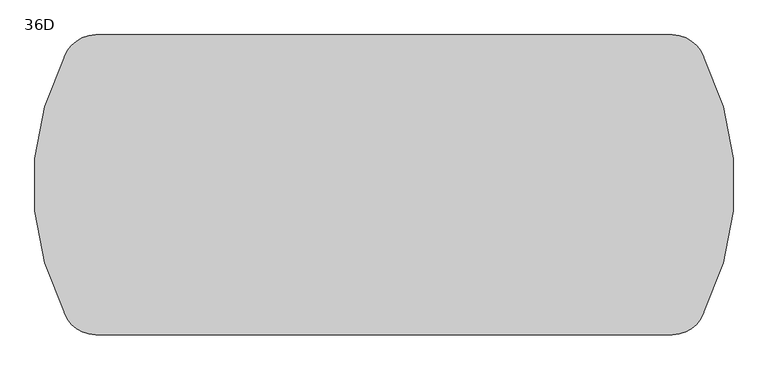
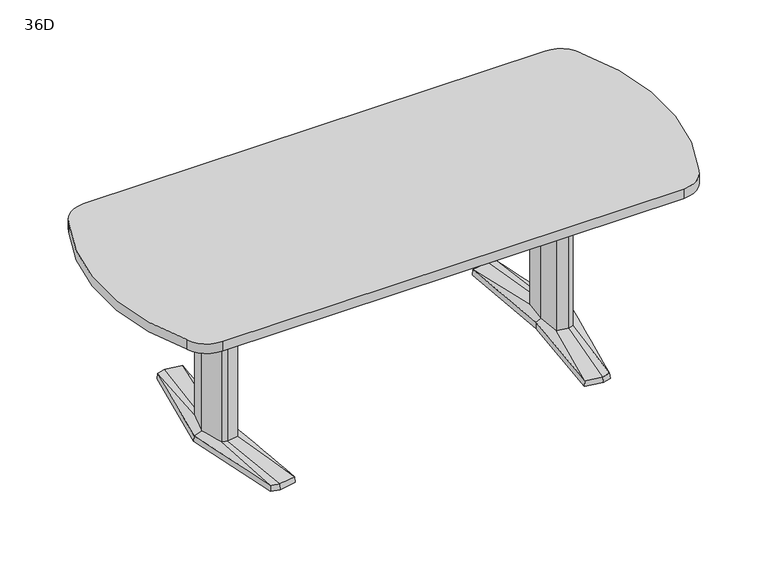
"""IFC4 building model written with IfcOpenShell, lengths in millimetres: furniture geometry, Coalesse_AM_Table_Conference_ETable2_SoftRadiused_84in_AluminiumBase : 36D."""

from ifc_helpers import new_model, si_unit, point, frame, frame_2d, origin, place, context, project, spatial, polyline, circle_curve, trimmed, segment, composite_curve, outline, extrude, source, transform, mapped, element, save
from ifc_brep_helpers import plane_surface, spline_surface, advanced_brep


def furniture_36d_5739cef9(model_context):
    return source(origin(), model_context, "Body", "SolidModel", [
        advanced_brep(
        [(614.8503471, -379.3768856, 25.4), (644.5756636, -371.5332654, 25.4), (668.2327243, -89.293702, 36.5125), (648.9795254, -94.605478, 36.5125), (606.0521001, -87.0529327, 36.5125), (551.7612538, -368.5071562, 25.4), (597.9364207, 0.0, 36.5125), (579.8389754, 0.3970149, 25.4), (606.0521001, 87.0529327, 36.5125), (551.7615002, 368.5172593, 25.4), (648.9795254, 94.605478, 36.5125), (614.8502233, 379.3769183, 25.4), (668.2327243, 89.293702, 36.5125), (644.7535458, 371.4863276, 25.4), (692.1595251, 0.0, 36.5125), (721.4851663, 0.0003516, 25.4), (578.2468742, 0.3968871, 3.175), (550.06875, 369.8367279, 3.175), (614.9213004, 381.0, 3.175), (646.1093245, 372.7704151, 3.175), (723.10625, 0.0, 3.175), (645.9309817, -372.8174744, 3.175), (614.9213004, -381.0, 3.175), (550.06875, -369.8264415, 3.175), (649.5979264, 107.6121478, 3.175), (594.3065451, 97.8843184, 3.175), (585.1810887, 0.0, 3.175), (594.3065451, -97.8843184, 3.175), (649.5979264, -107.6121478, 3.175), (678.6183473, -99.6056872, 3.175), (705.3083085, 0.0, 3.175), (678.6183473, 99.6056872, 3.175), (613.4286812, 346.9152841, 3.175), (557.7811371, 337.3364985, 3.175), (560.1889918, 324.8641942, 3.175), (612.8600644, 333.9306305, 3.175), (648.6725609, 324.4807859, 3.175), (647.5544526, 337.9105158, 3.175), (613.4286812, -346.9152841, 3.175), (647.5544526, -337.9105158, 3.175), (648.6725609, -324.4807859, 3.175), (612.8600644, -333.9306305, 3.175), (560.1889918, -324.8641942, 3.175), (557.7811371, -337.3364985, 3.175), (649.5979264, 107.6121478, 0.0), (678.6183473, 99.6056872, 0.0), (705.3083085, 0.0, 0.0), (678.6183473, -99.6056872, 0.0), (649.5979264, -107.6121478, 0.0), (594.3065451, -97.8843184, 0.0), (585.1810887, 0.0, 0.0), (594.3065451, 97.8843184, 0.0), (613.4286812, 346.9152841, 0.0), (647.5544526, 337.9105158, 0.0), (648.6725609, 324.4807859, 0.0), (612.8600644, 333.9306305, 0.0), (560.1889918, 324.8641942, 0.0), (557.7811371, 337.3364985, 0.0), (613.4286812, -346.9152841, 0.0), (557.7811371, -337.3364985, 0.0), (560.1889918, -324.8641942, 0.0), (612.8600644, -333.9306305, 0.0), (648.6725609, -324.4807859, 0.0), (647.5544526, -337.9105158, 0.0), (668.2327243, 89.293702, 698.5), (648.9795254, 94.605478, 698.5), (606.0521001, 87.0529327, 698.5), (597.9364207, 0.0, 698.5), (606.0521001, -87.0529327, 698.5), (648.9795254, -94.605478, 698.5), (668.2327243, -89.293702, 698.5), (692.1595251, 0.0, 698.5)],
        [
            (0, 1),
            (1, 2),
            (2, 3),
            (3, 0),
            (3, 4),
            (4, 5),
            (5, 0),
            (4, 6),
            (6, 7),
            (7, 5),
            (6, 8),
            (8, 9),
            (9, 7),
            (8, 10),
            (10, 11),
            (11, 9),
            (10, 12),
            (12, 13),
            (13, 11),
            (12, 14),
            (14, 15),
            (15, 13),
            (1, 15),
            (14, 2),
            (16, 17),
            (17, 18),
            (18, 19),
            (19, 20),
            (20, 21),
            (21, 22),
            (22, 23),
            (23, 16),
            (24, 25),
            (25, 26),
            (26, 27),
            (27, 28),
            (28, 29),
            (29, 30),
            (30, 31),
            (31, 24),
            (32, 33),
            (33, 34),
            (34, 35),
            (35, 36),
            (36, 37),
            (37, 32),
            (38, 39),
            (39, 40),
            (40, 41),
            (41, 42),
            (42, 43),
            (43, 38),
            (16, 7),
            (9, 17),
            (11, 18),
            (13, 19),
            (15, 20),
            (1, 21),
            (0, 22),
            (5, 23),
            (44, 45),
            (45, 46),
            (46, 47),
            (47, 48),
            (48, 49),
            (49, 50),
            (50, 51),
            (51, 44),
            (52, 53),
            (53, 54),
            (54, 55),
            (55, 56),
            (56, 57),
            (57, 52),
            (58, 59),
            (59, 60),
            (60, 61),
            (61, 62),
            (62, 63),
            (63, 58),
            (44, 24),
            (31, 45),
            (30, 46),
            (29, 47),
            (28, 48),
            (27, 49),
            (26, 50),
            (25, 51),
            (52, 32),
            (37, 53),
            (36, 54),
            (35, 55),
            (34, 56),
            (33, 57),
            (58, 38),
            (43, 59),
            (42, 60),
            (41, 61),
            (40, 62),
            (39, 63),
            (64, 65),
            (65, 66),
            (66, 67),
            (67, 68),
            (68, 69),
            (69, 70),
            (70, 71),
            (71, 64),
            (71, 14),
            (12, 64),
            (70, 2),
            (69, 3),
            (68, 4),
            (67, 6),
            (66, 8),
            (65, 10),
        ],
        [
            spline_surface(1, 1, [[(644.5756636, -371.5332654, 25.4), (614.8503471, -379.3768856, 25.4)], [(668.2327243, -89.293702, 36.5125), (648.9795254, -94.605478, 36.5125)]], [2, 2], [2, 2], [0.0, 1.0], [0.0, 1.0]),
            spline_surface(1, 1, [[(614.8503471, -379.3768856, 25.4), (551.7612538, -368.5071562, 25.4)], [(648.9795254, -94.605478, 36.5125), (606.0521001, -87.0529327, 36.5125)]], [2, 2], [2, 2], [0.0, 1.0], [0.0, 1.0]),
            spline_surface(1, 1, [[(551.7612538, -368.5071562, 25.4), (579.8389754, 0.3970149, 25.4)], [(606.0521001, -87.0529327, 36.5125), (597.9364207, 0.0, 36.5125)]], [2, 2], [2, 2], [0.0, 1.0], [0.0, 1.0]),
            spline_surface(1, 1, [[(579.8389754, 0.3970149, 25.4), (551.7615002, 368.5172593, 25.4)], [(597.9364207, 0.0, 36.5125), (606.0521001, 87.0529327, 36.5125)]], [2, 2], [2, 2], [0.0, 1.0], [0.0, 1.0]),
            spline_surface(1, 1, [[(551.7615002, 368.5172593, 25.4), (614.8502233, 379.3769183, 25.4)], [(606.0521001, 87.0529327, 36.5125), (648.9795254, 94.605478, 36.5125)]], [2, 2], [2, 2], [0.0, 1.0], [0.0, 1.0]),
            spline_surface(1, 1, [[(614.8502233, 379.3769183, 25.4), (644.7535458, 371.4863276, 25.4)], [(648.9795254, 94.605478, 36.5125), (668.2327243, 89.293702, 36.5125)]], [2, 2], [2, 2], [0.0, 1.0], [0.0, 1.0]),
            spline_surface(1, 1, [[(644.7535458, 371.4863276, 25.4), (721.4851663, 0.0003516, 25.4)], [(668.2327243, 89.293702, 36.5125), (692.1595251, 0.0, 36.5125)]], [2, 2], [2, 2], [0.0, 1.0], [0.0, 1.0]),
            spline_surface(1, 1, [[(721.4851663, 0.0003516, 25.4), (644.5756636, -371.5332654, 25.4)], [(692.1595251, 0.0, 36.5125), (668.2327243, -89.293702, 36.5125)]], [2, 2], [2, 2], [0.0, 1.0], [0.0, 1.0]),
            plane_surface(frame((615.4216914, 0.0450143, 3.175), z_axis=(0.0, 0.0, -1.0), x_axis=(-0.9669048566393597, -0.2551372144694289, 0.0))),
            plane_surface(frame((564.1578121, 185.1168075, 3.175), z_axis=(-0.9945699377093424, -0.07585840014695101, 0.0712470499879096), x_axis=(-0.07605167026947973, 0.9971038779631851, 0.0))),
            plane_surface(frame((582.4950252, 375.418364, 3.175), z_axis=(-0.1692071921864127, 0.9830019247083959, 0.07124704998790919), x_axis=(0.985506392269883, 0.16963829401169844, 0.0))),
            plane_surface(frame((630.5153124, 376.8852076, 3.175), z_axis=(0.2544888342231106, 0.9644476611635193, 0.07124704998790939), x_axis=(0.9669048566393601, -0.25513721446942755, 0.0))),
            plane_surface(frame((684.6077872, 186.3852076, 3.175), z_axis=(0.9768383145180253, 0.2017690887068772, 0.07124704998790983), x_axis=(0.20228315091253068, -0.9793270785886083, 0.0))),
            plane_surface(frame((684.5186158, -186.4087372, 3.175), z_axis=(0.9767507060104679, -0.20219276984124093, 0.07124704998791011), x_axis=(-0.2027079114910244, -0.9792392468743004, 0.0))),
            plane_surface(frame((630.426141, -376.9087372, 3.175), z_axis=(0.2544888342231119, -0.9644476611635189, 0.0712470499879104), x_axis=(-0.9669048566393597, -0.2551372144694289, 0.0))),
            plane_surface(frame((582.4950252, -375.4132207, 3.175), z_axis=(-0.16935861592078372, -0.982975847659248, 0.07124704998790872), x_axis=(-0.9854802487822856, 0.16979010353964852, 0.0))),
            plane_surface(frame((564.1578121, -184.7147772, 3.175), z_axis=(-0.9945820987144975, 0.07569878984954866, 0.07124704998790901), x_axis=(0.07589165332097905, 0.9971160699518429, 0.0))),
            plane_surface(frame((652.3571479, 106.8509046, 0.0), z_axis=(0.0, 0.0, -1.0000000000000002), x_axis=(-0.9639855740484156, 0.26595453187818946, 0.0))),
            plane_surface(frame((649.5979264, 107.6121478, 3.175), z_axis=(0.26595453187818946, 0.9639855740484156, 0.0), x_axis=(0.0, 0.0, -1.0))),
            plane_surface(frame((678.6183473, 99.6056872, 3.175), z_axis=(0.9659241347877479, 0.2588253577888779, 0.0), x_axis=(0.0, 0.0, -1.0))),
            plane_surface(frame((705.3083085, 0.0, 3.175), z_axis=(0.9659241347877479, -0.2588253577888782, 0.0), x_axis=(0.0, 0.0, -1.0))),
            plane_surface(frame((678.6183473, -99.6056872, 3.175), z_axis=(0.26595453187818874, -0.9639855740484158, 0.0), x_axis=(0.0, 0.0, -1.0))),
            plane_surface(frame((649.5979264, -107.6121478, 3.175), z_axis=(-0.17327617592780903, -0.9848732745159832, 0.0), x_axis=(0.0, 0.0, -1.0))),
            plane_surface(frame((594.3065451, -97.8843184, 3.175), z_axis=(-0.9956824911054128, -0.0928244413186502, 0.0), x_axis=(0.0, 0.0, -1.0))),
            plane_surface(frame((585.1810887, 0.0, 3.175), z_axis=(-0.9956824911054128, 0.09282444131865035, 0.0), x_axis=(0.0, 0.0, -1.0))),
            plane_surface(frame((594.3065451, 97.8843184, 3.175), z_axis=(-0.17327617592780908, 0.984873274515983, 0.0), x_axis=(0.0, 0.0, -1.0))),
            plane_surface(frame((613.4286812, 346.9152841, 3.175), z_axis=(0.25513721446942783, 0.9669048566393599, 0.0), x_axis=(0.0, 0.0, -1.0))),
            plane_surface(frame((647.5544526, 337.9105158, 3.175), z_axis=(0.9965521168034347, 0.0829691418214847, 0.0), x_axis=(0.0, 0.0, -1.0))),
            plane_surface(frame((648.6725609, 324.4807859, 3.175), z_axis=(-0.25513721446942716, -0.9669048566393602, 0.0), x_axis=(0.0, 0.0, -1.0))),
            plane_surface(frame((612.8600644, 333.9306305, 3.175), z_axis=(0.16963829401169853, -0.985506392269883, 0.0), x_axis=(0.0, 0.0, -1.0))),
            plane_surface(frame((560.1889918, 324.8641942, 3.175), z_axis=(-0.9818699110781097, -0.18955600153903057, 0.0), x_axis=(0.0, 0.0, -1.0))),
            plane_surface(frame((557.7811371, 337.3364985, 3.175), z_axis=(-0.16963829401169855, 0.9855063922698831, 0.0), x_axis=(0.0, 0.0, -1.0))),
            plane_surface(frame((613.4286812, -346.9152841, 3.175), z_axis=(-0.1696382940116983, -0.9855063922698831, 0.0), x_axis=(0.0, 0.0, -1.0))),
            plane_surface(frame((557.7811371, -337.3364985, 3.175), z_axis=(-0.9818699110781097, 0.18955600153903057, 0.0), x_axis=(0.0, 0.0, -1.0))),
            plane_surface(frame((560.1889918, -324.8641942, 3.175), z_axis=(0.16963829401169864, 0.985506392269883, 0.0), x_axis=(0.0, 0.0, -1.0))),
            plane_surface(frame((612.8600644, -333.9306305, 3.175), z_axis=(-0.2551372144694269, 0.9669048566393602, 0.0), x_axis=(0.0, 0.0, -1.0))),
            plane_surface(frame((648.6725609, -324.4807859, 3.175), z_axis=(0.9965521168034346, -0.0829691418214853, 0.0), x_axis=(0.0, 0.0, -1.0))),
            plane_surface(frame((647.5544526, -337.9105158, 3.175), z_axis=(0.2551372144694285, -0.9669048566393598, 0.0), x_axis=(0.0, 0.0, -1.0))),
            plane_surface(frame((692.1595251, 0.0, 698.5), z_axis=(0.0, 0.0, 1.0), x_axis=(0.25882535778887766, -0.965924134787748, 0.0))),
            plane_surface(frame((668.2327243, 89.293702, 698.5), z_axis=(0.965924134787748, 0.25882535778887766, 0.0), x_axis=(0.0, 0.0, -1.0))),
            plane_surface(frame((692.1595251, 0.0, 698.5), z_axis=(0.965924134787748, -0.2588253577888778, 0.0), x_axis=(0.0, 0.0, -1.0))),
            plane_surface(frame((668.2327243, -89.293702, 698.5), z_axis=(0.2659545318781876, -0.963985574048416, 0.0), x_axis=(0.0, 0.0, -1.0))),
            plane_surface(frame((648.9795254, -94.605478, 698.5), z_axis=(-0.1732761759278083, -0.9848732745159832, 0.0), x_axis=(0.0, 0.0, -1.0))),
            plane_surface(frame((606.0521001, -87.0529327, 698.5), z_axis=(-0.9956824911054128, -0.0928244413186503, 0.0), x_axis=(0.0, 0.0, -1.0))),
            plane_surface(frame((597.9364207, 0.0, 698.5), z_axis=(-0.9956824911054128, 0.09282444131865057, 0.0), x_axis=(0.0, 0.0, -1.0))),
            plane_surface(frame((606.0521001, 87.0529327, 698.5), z_axis=(-0.17327617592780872, 0.9848732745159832, 0.0), x_axis=(0.0, 0.0, -1.0))),
            plane_surface(frame((648.9795254, 94.605478, 698.5), z_axis=(0.26595453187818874, 0.9639855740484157, 0.0), x_axis=(0.0, 0.0, -1.0))),
        ],
        [
            (0, [[1, 2, 3, 4]]),
            (1, [[5, 6, 7, -4]]),
            (2, [[8, 9, 10, -6]]),
            (3, [[11, 12, 13, -9]]),
            (4, [[14, 15, 16, -12]]),
            (5, [[17, 18, 19, -15]]),
            (6, [[20, 21, 22, -18]]),
            (7, [[23, -21, 24, -2]]),
            (8, [[25, 26, 27, 28, 29, 30, 31, 32], [33, 34, 35, 36, 37, 38, 39, 40], [41, 42, 43, 44, 45, 46], [47, 48, 49, 50, 51, 52]]),
            (9, [[53, -13, 54, -25]]),
            (10, [[-54, -16, 55, -26]]),
            (11, [[-55, -19, 56, -27]]),
            (12, [[-56, -22, 57, -28]]),
            (13, [[-57, -23, 58, -29]]),
            (14, [[-58, -1, 59, -30]]),
            (15, [[-59, -7, 60, -31]]),
            (16, [[-60, -10, -53, -32]]),
            (17, [[61, 62, 63, 64, 65, 66, 67, 68]]),
            (17, [[69, 70, 71, 72, 73, 74]]),
            (17, [[75, 76, 77, 78, 79, 80]]),
            (18, [[81, -40, 82, -61]]),
            (19, [[-82, -39, 83, -62]]),
            (20, [[-83, -38, 84, -63]]),
            (21, [[-84, -37, 85, -64]]),
            (22, [[-85, -36, 86, -65]]),
            (23, [[-86, -35, 87, -66]]),
            (24, [[-87, -34, 88, -67]]),
            (25, [[-88, -33, -81, -68]]),
            (26, [[89, -46, 90, -69]]),
            (27, [[-90, -45, 91, -70]]),
            (28, [[-91, -44, 92, -71]]),
            (29, [[-92, -43, 93, -72]]),
            (30, [[-93, -42, 94, -73]]),
            (31, [[-94, -41, -89, -74]]),
            (32, [[95, -52, 96, -75]]),
            (33, [[-96, -51, 97, -76]]),
            (34, [[-97, -50, 98, -77]]),
            (35, [[-98, -49, 99, -78]]),
            (36, [[-99, -48, 100, -79]]),
            (37, [[-100, -47, -95, -80]]),
            (38, [[101, 102, 103, 104, 105, 106, 107, 108]]),
            (39, [[109, -20, 110, -108]]),
            (40, [[111, -24, -109, -107]]),
            (41, [[112, -3, -111, -106]]),
            (42, [[113, -5, -112, -105]]),
            (43, [[114, -8, -113, -104]]),
            (44, [[115, -11, -114, -103]]),
            (45, [[116, -14, -115, -102]]),
            (46, [[-110, -17, -116, -101]]),
        ],
    ),
        advanced_brep(
        [(-614.8503471, -379.3768856, 25.4), (-648.9795254, -94.605478, 36.5125), (-668.2327243, -89.293702, 36.5125), (-644.5756636, -371.5332654, 25.4), (-551.7612538, -368.5071562, 25.4), (-606.0521001, -87.0529327, 36.5125), (-579.8389754, 0.3970149, 25.4), (-597.9364207, 0.0, 36.5125), (-551.7615002, 368.5172593, 25.4), (-606.0521001, 87.0529327, 36.5125), (-614.8502233, 379.3769183, 25.4), (-648.9795254, 94.605478, 36.5125), (-644.7535458, 371.4863276, 25.4), (-668.2327243, 89.293702, 36.5125), (-721.4851663, 0.0003516, 25.4), (-692.1595251, 0.0, 36.5125), (-578.2468742, 0.3968871, 3.175), (-550.06875, -369.8264415, 3.175), (-614.9213004, -381.0, 3.175), (-645.9309817, -372.8174744, 3.175), (-723.10625, 0.0, 3.175), (-646.1093245, 372.7704151, 3.175), (-614.9213004, 381.0, 3.175), (-550.06875, 369.8367279, 3.175), (-649.5979264, 107.6121478, 3.175), (-678.6183473, 99.6056872, 3.175), (-705.3083085, 0.0, 3.175), (-678.6183473, -99.6056872, 3.175), (-649.5979264, -107.6121478, 3.175), (-594.3065451, -97.8843184, 3.175), (-585.1810887, 0.0, 3.175), (-594.3065451, 97.8843184, 3.175), (-613.4286812, 346.9152841, 3.175), (-647.5544526, 337.9105158, 3.175), (-648.6725609, 324.4807859, 3.175), (-612.8600644, 333.9306305, 3.175), (-560.1889918, 324.8641942, 3.175), (-557.7811371, 337.3364985, 3.175), (-613.4286812, -346.9152841, 3.175), (-557.7811371, -337.3364985, 3.175), (-560.1889918, -324.8641942, 3.175), (-612.8600644, -333.9306305, 3.175), (-648.6725609, -324.4807859, 3.175), (-647.5544526, -337.9105158, 3.175), (-649.5979264, 107.6121478, 0.0), (-594.3065451, 97.8843184, 0.0), (-585.1810887, 0.0, 0.0), (-594.3065451, -97.8843184, 0.0), (-649.5979264, -107.6121478, 0.0), (-678.6183473, -99.6056872, 0.0), (-705.3083085, 0.0, 0.0), (-678.6183473, 99.6056872, 0.0), (-613.4286812, 346.9152841, 0.0), (-557.7811371, 337.3364985, 0.0), (-560.1889918, 324.8641942, 0.0), (-612.8600644, 333.9306305, 0.0), (-648.6725609, 324.4807859, 0.0), (-647.5544526, 337.9105158, 0.0), (-613.4286812, -346.9152841, 0.0), (-647.5544526, -337.9105158, 0.0), (-648.6725609, -324.4807859, 0.0), (-612.8600644, -333.9306305, 0.0), (-560.1889918, -324.8641942, 0.0), (-557.7811371, -337.3364985, 0.0), (-668.2327243, 89.293702, 698.5), (-692.1595251, 0.0, 698.5), (-668.2327243, -89.293702, 698.5), (-648.9795254, -94.605478, 698.5), (-606.0521001, -87.0529327, 698.5), (-597.9364207, 0.0, 698.5), (-606.0521001, 87.0529327, 698.5), (-648.9795254, 94.605478, 698.5)],
        [
            (0, 1),
            (1, 2),
            (2, 3),
            (3, 0),
            (0, 4),
            (4, 5),
            (5, 1),
            (4, 6),
            (6, 7),
            (7, 5),
            (6, 8),
            (8, 9),
            (9, 7),
            (8, 10),
            (10, 11),
            (11, 9),
            (10, 12),
            (12, 13),
            (13, 11),
            (12, 14),
            (14, 15),
            (15, 13),
            (2, 15),
            (14, 3),
            (16, 17),
            (17, 18),
            (18, 19),
            (19, 20),
            (20, 21),
            (21, 22),
            (22, 23),
            (23, 16),
            (24, 25),
            (25, 26),
            (26, 27),
            (27, 28),
            (28, 29),
            (29, 30),
            (30, 31),
            (31, 24),
            (32, 33),
            (33, 34),
            (34, 35),
            (35, 36),
            (36, 37),
            (37, 32),
            (38, 39),
            (39, 40),
            (40, 41),
            (41, 42),
            (42, 43),
            (43, 38),
            (23, 8),
            (6, 16),
            (22, 10),
            (21, 12),
            (20, 14),
            (19, 3),
            (18, 0),
            (17, 4),
            (44, 45),
            (45, 46),
            (46, 47),
            (47, 48),
            (48, 49),
            (49, 50),
            (50, 51),
            (51, 44),
            (52, 53),
            (53, 54),
            (54, 55),
            (55, 56),
            (56, 57),
            (57, 52),
            (58, 59),
            (59, 60),
            (60, 61),
            (61, 62),
            (62, 63),
            (63, 58),
            (51, 25),
            (24, 44),
            (50, 26),
            (49, 27),
            (48, 28),
            (47, 29),
            (46, 30),
            (45, 31),
            (57, 33),
            (32, 52),
            (56, 34),
            (55, 35),
            (54, 36),
            (53, 37),
            (63, 39),
            (38, 58),
            (62, 40),
            (61, 41),
            (60, 42),
            (59, 43),
            (64, 65),
            (65, 66),
            (66, 67),
            (67, 68),
            (68, 69),
            (69, 70),
            (70, 71),
            (71, 64),
            (64, 13),
            (15, 65),
            (2, 66),
            (1, 67),
            (5, 68),
            (7, 69),
            (9, 70),
            (11, 71),
        ],
        [
            spline_surface(1, 1, [[(-644.5756636, -371.5332654, 25.4), (-668.2327243, -89.293702, 36.5125)], [(-614.8503471, -379.3768856, 25.4), (-648.9795254, -94.605478, 36.5125)]], [2, 2], [2, 2], [0.0, 1.0], [0.0, 1.0]),
            spline_surface(1, 1, [[(-614.8503471, -379.3768856, 25.4), (-648.9795254, -94.605478, 36.5125)], [(-551.7612538, -368.5071562, 25.4), (-606.0521001, -87.0529327, 36.5125)]], [2, 2], [2, 2], [0.0, 1.0], [0.0, 1.0]),
            spline_surface(1, 1, [[(-551.7612538, -368.5071562, 25.4), (-606.0521001, -87.0529327, 36.5125)], [(-579.8389754, 0.3970149, 25.4), (-597.9364207, 0.0, 36.5125)]], [2, 2], [2, 2], [0.0, 1.0], [0.0, 1.0]),
            spline_surface(1, 1, [[(-579.8389754, 0.3970149, 25.4), (-597.9364207, 0.0, 36.5125)], [(-551.7615002, 368.5172593, 25.4), (-606.0521001, 87.0529327, 36.5125)]], [2, 2], [2, 2], [0.0, 1.0], [0.0, 1.0]),
            spline_surface(1, 1, [[(-551.7615002, 368.5172593, 25.4), (-606.0521001, 87.0529327, 36.5125)], [(-614.8502233, 379.3769183, 25.4), (-648.9795254, 94.605478, 36.5125)]], [2, 2], [2, 2], [0.0, 1.0], [0.0, 1.0]),
            spline_surface(1, 1, [[(-614.8502233, 379.3769183, 25.4), (-648.9795254, 94.605478, 36.5125)], [(-644.7535458, 371.4863276, 25.4), (-668.2327243, 89.293702, 36.5125)]], [2, 2], [2, 2], [0.0, 1.0], [0.0, 1.0]),
            spline_surface(1, 1, [[(-644.7535458, 371.4863276, 25.4), (-668.2327243, 89.293702, 36.5125)], [(-721.4851663, 0.0003516, 25.4), (-692.1595251, 0.0, 36.5125)]], [2, 2], [2, 2], [0.0, 1.0], [0.0, 1.0]),
            spline_surface(1, 1, [[(-721.4851663, 0.0003516, 25.4), (-692.1595251, 0.0, 36.5125)], [(-644.5756636, -371.5332654, 25.4), (-668.2327243, -89.293702, 36.5125)]], [2, 2], [2, 2], [0.0, 1.0], [0.0, 1.0]),
            plane_surface(frame((-615.4216914, 0.0450143, 3.175), z_axis=(0.0, 0.0, -1.0), x_axis=(0.9669048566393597, -0.2551372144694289, 0.0))),
            plane_surface(frame((-564.1578121, 185.1168075, 3.175), z_axis=(0.9945699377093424, -0.07585840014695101, 0.0712470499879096), x_axis=(0.07605167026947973, 0.9971038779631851, 0.0))),
            plane_surface(frame((-582.4950252, 375.418364, 3.175), z_axis=(0.1692071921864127, 0.9830019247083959, 0.07124704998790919), x_axis=(-0.985506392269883, 0.16963829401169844, 0.0))),
            plane_surface(frame((-630.5153124, 376.8852076, 3.175), z_axis=(-0.2544888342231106, 0.9644476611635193, 0.07124704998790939), x_axis=(-0.9669048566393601, -0.25513721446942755, 0.0))),
            plane_surface(frame((-684.6077872, 186.3852076, 3.175), z_axis=(-0.9768383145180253, 0.2017690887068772, 0.07124704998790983), x_axis=(-0.20228315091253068, -0.9793270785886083, 0.0))),
            plane_surface(frame((-684.5186158, -186.4087372, 3.175), z_axis=(-0.9767507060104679, -0.20219276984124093, 0.07124704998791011), x_axis=(0.2027079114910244, -0.9792392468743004, 0.0))),
            plane_surface(frame((-630.426141, -376.9087372, 3.175), z_axis=(-0.2544888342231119, -0.9644476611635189, 0.0712470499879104), x_axis=(0.9669048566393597, -0.2551372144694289, 0.0))),
            plane_surface(frame((-582.4950252, -375.4132207, 3.175), z_axis=(0.16935861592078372, -0.982975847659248, 0.07124704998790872), x_axis=(0.9854802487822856, 0.16979010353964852, 0.0))),
            plane_surface(frame((-564.1578121, -184.7147772, 3.175), z_axis=(0.9945820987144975, 0.07569878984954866, 0.07124704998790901), x_axis=(-0.07589165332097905, 0.9971160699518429, 0.0))),
            plane_surface(frame((-652.3571479, 106.8509046, 0.0), z_axis=(0.0, 0.0, -1.0000000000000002), x_axis=(0.9639855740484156, 0.26595453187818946, 0.0))),
            plane_surface(frame((-649.5979264, 107.6121478, 3.175), z_axis=(-0.26595453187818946, 0.9639855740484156, 0.0), x_axis=(0.0, 0.0, -1.0))),
            plane_surface(frame((-678.6183473, 99.6056872, 3.175), z_axis=(-0.9659241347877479, 0.2588253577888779, 0.0), x_axis=(0.0, 0.0, -1.0))),
            plane_surface(frame((-705.3083085, 0.0, 3.175), z_axis=(-0.9659241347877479, -0.2588253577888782, 0.0), x_axis=(0.0, 0.0, -1.0))),
            plane_surface(frame((-678.6183473, -99.6056872, 3.175), z_axis=(-0.26595453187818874, -0.9639855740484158, 0.0), x_axis=(0.0, 0.0, -1.0))),
            plane_surface(frame((-649.5979264, -107.6121478, 3.175), z_axis=(0.17327617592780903, -0.9848732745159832, 0.0), x_axis=(0.0, 0.0, -1.0))),
            plane_surface(frame((-594.3065451, -97.8843184, 3.175), z_axis=(0.9956824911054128, -0.0928244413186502, 0.0), x_axis=(0.0, 0.0, -1.0))),
            plane_surface(frame((-585.1810887, 0.0, 3.175), z_axis=(0.9956824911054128, 0.09282444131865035, 0.0), x_axis=(0.0, 0.0, -1.0))),
            plane_surface(frame((-594.3065451, 97.8843184, 3.175), z_axis=(0.17327617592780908, 0.984873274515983, 0.0), x_axis=(0.0, 0.0, -1.0))),
            plane_surface(frame((-613.4286812, 346.9152841, 3.175), z_axis=(-0.25513721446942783, 0.9669048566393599, 0.0), x_axis=(0.0, 0.0, -1.0))),
            plane_surface(frame((-647.5544526, 337.9105158, 3.175), z_axis=(-0.9965521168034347, 0.0829691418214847, 0.0), x_axis=(0.0, 0.0, -1.0))),
            plane_surface(frame((-648.6725609, 324.4807859, 3.175), z_axis=(0.25513721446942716, -0.9669048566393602, 0.0), x_axis=(0.0, 0.0, -1.0))),
            plane_surface(frame((-612.8600644, 333.9306305, 3.175), z_axis=(-0.16963829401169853, -0.985506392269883, 0.0), x_axis=(0.0, 0.0, -1.0))),
            plane_surface(frame((-560.1889918, 324.8641942, 3.175), z_axis=(0.9818699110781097, -0.18955600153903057, 0.0), x_axis=(0.0, 0.0, -1.0))),
            plane_surface(frame((-557.7811371, 337.3364985, 3.175), z_axis=(0.16963829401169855, 0.9855063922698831, 0.0), x_axis=(0.0, 0.0, -1.0))),
            plane_surface(frame((-613.4286812, -346.9152841, 3.175), z_axis=(0.1696382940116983, -0.9855063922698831, 0.0), x_axis=(0.0, 0.0, -1.0))),
            plane_surface(frame((-557.7811371, -337.3364985, 3.175), z_axis=(0.9818699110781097, 0.18955600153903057, 0.0), x_axis=(0.0, 0.0, -1.0))),
            plane_surface(frame((-560.1889918, -324.8641942, 3.175), z_axis=(-0.16963829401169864, 0.985506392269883, 0.0), x_axis=(0.0, 0.0, -1.0))),
            plane_surface(frame((-612.8600644, -333.9306305, 3.175), z_axis=(0.2551372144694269, 0.9669048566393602, 0.0), x_axis=(0.0, 0.0, -1.0))),
            plane_surface(frame((-648.6725609, -324.4807859, 3.175), z_axis=(-0.9965521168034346, -0.0829691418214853, 0.0), x_axis=(0.0, 0.0, -1.0))),
            plane_surface(frame((-647.5544526, -337.9105158, 3.175), z_axis=(-0.2551372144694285, -0.9669048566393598, 0.0), x_axis=(0.0, 0.0, -1.0))),
            plane_surface(frame((-692.1595251, 0.0, 698.5), z_axis=(0.0, 0.0, 1.0), x_axis=(-0.25882535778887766, -0.965924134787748, 0.0))),
            plane_surface(frame((-668.2327243, 89.293702, 698.5), z_axis=(-0.965924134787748, 0.25882535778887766, 0.0), x_axis=(0.0, 0.0, -1.0))),
            plane_surface(frame((-692.1595251, 0.0, 698.5), z_axis=(-0.965924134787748, -0.2588253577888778, 0.0), x_axis=(0.0, 0.0, -1.0))),
            plane_surface(frame((-668.2327243, -89.293702, 698.5), z_axis=(-0.2659545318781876, -0.963985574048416, 0.0), x_axis=(0.0, 0.0, -1.0))),
            plane_surface(frame((-648.9795254, -94.605478, 698.5), z_axis=(0.1732761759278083, -0.9848732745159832, 0.0), x_axis=(0.0, 0.0, -1.0))),
            plane_surface(frame((-606.0521001, -87.0529327, 698.5), z_axis=(0.9956824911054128, -0.0928244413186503, 0.0), x_axis=(0.0, 0.0, -1.0))),
            plane_surface(frame((-597.9364207, 0.0, 698.5), z_axis=(0.9956824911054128, 0.09282444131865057, 0.0), x_axis=(0.0, 0.0, -1.0))),
            plane_surface(frame((-606.0521001, 87.0529327, 698.5), z_axis=(0.17327617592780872, 0.9848732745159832, 0.0), x_axis=(0.0, 0.0, -1.0))),
            plane_surface(frame((-648.9795254, 94.605478, 698.5), z_axis=(-0.26595453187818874, 0.9639855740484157, 0.0), x_axis=(0.0, 0.0, -1.0))),
        ],
        [
            (0, [[1, 2, 3, 4]]),
            (1, [[-1, 5, 6, 7]]),
            (2, [[-6, 8, 9, 10]]),
            (3, [[-9, 11, 12, 13]]),
            (4, [[-12, 14, 15, 16]]),
            (5, [[-15, 17, 18, 19]]),
            (6, [[-18, 20, 21, 22]]),
            (7, [[-3, 23, -21, 24]]),
            (8, [[25, 26, 27, 28, 29, 30, 31, 32], [33, 34, 35, 36, 37, 38, 39, 40], [41, 42, 43, 44, 45, 46], [47, 48, 49, 50, 51, 52]]),
            (9, [[-32, 53, -11, 54]]),
            (10, [[-31, 55, -14, -53]]),
            (11, [[-30, 56, -17, -55]]),
            (12, [[-29, 57, -20, -56]]),
            (13, [[-28, 58, -24, -57]]),
            (14, [[-27, 59, -4, -58]]),
            (15, [[-26, 60, -5, -59]]),
            (16, [[-25, -54, -8, -60]]),
            (17, [[61, 62, 63, 64, 65, 66, 67, 68]]),
            (17, [[69, 70, 71, 72, 73, 74]]),
            (17, [[75, 76, 77, 78, 79, 80]]),
            (18, [[-68, 81, -33, 82]]),
            (19, [[-67, 83, -34, -81]]),
            (20, [[-66, 84, -35, -83]]),
            (21, [[-65, 85, -36, -84]]),
            (22, [[-64, 86, -37, -85]]),
            (23, [[-63, 87, -38, -86]]),
            (24, [[-62, 88, -39, -87]]),
            (25, [[-61, -82, -40, -88]]),
            (26, [[-74, 89, -41, 90]]),
            (27, [[-73, 91, -42, -89]]),
            (28, [[-72, 92, -43, -91]]),
            (29, [[-71, 93, -44, -92]]),
            (30, [[-70, 94, -45, -93]]),
            (31, [[-69, -90, -46, -94]]),
            (32, [[-80, 95, -47, 96]]),
            (33, [[-79, 97, -48, -95]]),
            (34, [[-78, 98, -49, -97]]),
            (35, [[-77, 99, -50, -98]]),
            (36, [[-76, 100, -51, -99]]),
            (37, [[-75, -96, -52, -100]]),
            (38, [[101, 102, 103, 104, 105, 106, 107, 108]]),
            (39, [[-101, 109, -22, 110]]),
            (40, [[-102, -110, -23, 111]]),
            (41, [[-103, -111, -2, 112]]),
            (42, [[-104, -112, -7, 113]]),
            (43, [[-105, -113, -10, 114]]),
            (44, [[-106, -114, -13, 115]]),
            (45, [[-107, -115, -16, 116]]),
            (46, [[-108, -116, -19, -109]]),
        ],
    ),
        extrude(outline(polyline([(96.8375, 698.5), (103.1875, 698.5), (103.1875, 476.25), (-103.1875, 476.25), (-103.1875, 698.5), (-96.8375, 698.5), (-96.8375, 482.6), (96.8375, 482.6), (96.8375, 698.5)])), frame((-597.9364207, 0.0, 0.0), z_axis=(1.0, 0.0, 0.0), x_axis=(0.0, 1.0, 0.0)), (0.0, 0.0, 1.0), 1195.8728415),
        extrude(outline(composite_curve([segment(polyline([(-973.4457112, -389.4652296), (-974.2015465, -387.3273037)]), True, "CONTINUOUS"), segment(trimmed(circle_curve(frame_2d((-210.420048, 0.0025878)), 856.379952), [point((-974.2015465, -387.3273037))], [point((-974.1956256, 387.3441544))], False, "CARTESIAN"), True, "CONTINUOUS"), segment(polyline([(-974.1956256, 387.3441544), (-973.4453442, 389.4662966)]), True, "CONTINUOUS"), segment(trimmed(circle_curve(frame_2d((-877.6558148, 355.6)), 101.6), [point((-973.4453442, 389.4662966))], [point((-877.6558148, 457.2))], False, "CARTESIAN"), True, "CONTINUOUS"), segment(polyline([(-877.6558148, 457.2), (877.6557872, 457.2)]), True, "CONTINUOUS"), segment(trimmed(circle_curve(frame_2d((877.6557872, 355.5999756)), 101.6000244), [point((877.6557872, 457.2))], [point((973.4457112, 389.4652296))], False, "CARTESIAN"), True, "CONTINUOUS"), segment(polyline([(973.4457112, 389.4652296), (974.2015465, 387.3323756)]), True, "CONTINUOUS"), segment(trimmed(circle_curve(frame_2d((210.4094405, -5.18e-05)), 856.3905595), [point((974.2015465, 387.3323756))], [point((974.1956256, -387.3441544))], False, "CARTESIAN"), True, "CONTINUOUS"), segment(polyline([(974.1956256, -387.3441544), (973.4453442, -389.4662966)]), True, "CONTINUOUS"), segment(trimmed(circle_curve(frame_2d((877.6558148, -355.6)), 101.6), [point((973.4453442, -389.4662966))], [point((877.6558148, -457.2))], False, "CARTESIAN"), True, "CONTINUOUS"), segment(polyline([(877.6558148, -457.2), (-877.6557872, -457.2)]), True, "CONTINUOUS"), segment(trimmed(circle_curve(frame_2d((-877.6557872, -355.5999756)), 101.6000244), [point((-877.6557872, -457.2))], [point((-973.4457112, -389.4652296))], False, "CARTESIAN"), True, "CONTINUOUS")], self_intersect=False)), frame((0.0, 0.0, 698.5), z_axis=(0.0, 0.0, 1.0), x_axis=(1.0, 0.0, 0.0)), (0.0, 0.0, 1.0), 38.1),
    ])


if __name__ == "__main__":
    model = new_model("IFC4")
    model_context = context("Model", 3, world=origin())
    ifc_project = project(units=[si_unit("LENGTHUNIT", "METRE", prefix="MILLI")], contexts=[model_context])
    site = spatial("IfcSite", under=ifc_project)
    building = spatial("IfcBuilding", under=site)
    placement = place(None, origin())
    furniture_36d_shape = furniture_36d_5739cef9(model_context)
    element("IfcFurniture", 1, ObjectType="Coalesse_AM_Table_Conference_ETable2_SoftRadiused_84in_AluminiumBase : 36D", at=placement, inside=building, context=model_context, shape_type="MappedRepresentation", body=[
        mapped(furniture_36d_shape, transform((0.0, 0.0, 0.0), x_axis=(1.0, 0.0, 0.0), y_axis=(0.0, 1.0, 0.0), z_axis=(0.0, 0.0, 1.0))),
    ])
    save(model, "model.ifc")
